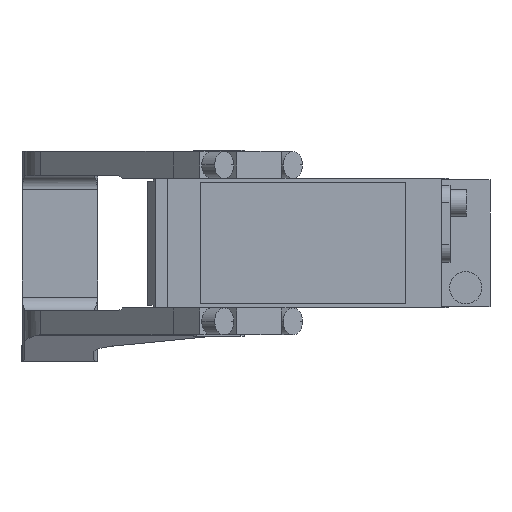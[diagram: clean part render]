
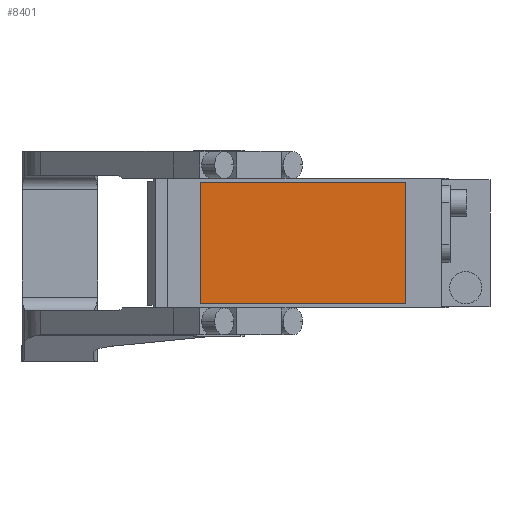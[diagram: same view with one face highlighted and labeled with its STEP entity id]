
A CAD part, front view. The second image highlights one B-rep face of the part: STEP entity #8401.
In plain terms, the highlighted planar face has unit normal (0, -1, 0).
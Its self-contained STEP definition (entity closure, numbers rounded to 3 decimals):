
#2 = VECTOR ( 'NONE', #3048, 1000. ) ;
#31 = CARTESIAN_POINT ( 'NONE',  ( 69., -280.5, 22.5 ) ) ;
#118 = CARTESIAN_POINT ( 'NONE',  ( -7., -280.5, 22.5 ) ) ;
#598 = VERTEX_POINT ( 'NONE', #12288 ) ;
#690 = EDGE_LOOP ( 'NONE', ( #12956, #12557, #5089, #828 ) ) ;
#828 = ORIENTED_EDGE ( 'NONE', *, *, #7422, .T. ) ;
#883 = AXIS2_PLACEMENT_3D ( 'NONE', #6419, #5334, #9649 ) ;
#910 = CARTESIAN_POINT ( 'NONE',  ( -7., -280.5, 22.5 ) ) ;
#2745 = LINE ( 'NONE', #7085, #9473 ) ;
#3048 = DIRECTION ( 'NONE',  ( 0., 0., 1. ) ) ;
#5089 = ORIENTED_EDGE ( 'NONE', *, *, #8534, .T. ) ;
#5334 = DIRECTION ( 'NONE',  ( 0., -1., 0. ) ) ;
#5995 = VERTEX_POINT ( 'NONE', #9123 ) ;
#6419 = CARTESIAN_POINT ( 'NONE',  ( 0., -280.5, 0. ) ) ;
#7085 = CARTESIAN_POINT ( 'NONE',  ( -7., -280.5, -22.5 ) ) ;
#7337 = DIRECTION ( 'NONE',  ( -1., 0., 0. ) ) ;
#7422 = EDGE_CURVE ( 'NONE', #598, #8999, #8395, .T. ) ;
#7685 = DIRECTION ( 'NONE',  ( 0., 0., -1. ) ) ;
#7950 = EDGE_CURVE ( 'NONE', #11957, #5995, #2745, .T. ) ;
#8395 = LINE ( 'NONE', #12718, #13498 ) ;
#8401 = ADVANCED_FACE ( 'NONE', ( #9586 ), #13934, .T. ) ;
#8449 = EDGE_CURVE ( 'NONE', #8999, #11957, #13004, .T. ) ;
#8534 = EDGE_CURVE ( 'NONE', #5995, #598, #11670, .T. ) ;
#8620 = DIRECTION ( 'NONE',  ( 1., 0., 0. ) ) ;
#8999 = VERTEX_POINT ( 'NONE', #910 ) ;
#9123 = CARTESIAN_POINT ( 'NONE',  ( 69., -280.5, -22.5 ) ) ;
#9473 = VECTOR ( 'NONE', #8620, 1000. ) ;
#9586 = FACE_OUTER_BOUND ( 'NONE', #690, .T. ) ;
#9649 = DIRECTION ( 'NONE',  ( 0., 0., -1. ) ) ;
#11670 = LINE ( 'NONE', #31, #2 ) ;
#11948 = VECTOR ( 'NONE', #7685, 1000. ) ;
#11957 = VERTEX_POINT ( 'NONE', #12412 ) ;
#12288 = CARTESIAN_POINT ( 'NONE',  ( 69., -280.5, 22.5 ) ) ;
#12412 = CARTESIAN_POINT ( 'NONE',  ( -7., -280.5, -22.5 ) ) ;
#12557 = ORIENTED_EDGE ( 'NONE', *, *, #7950, .T. ) ;
#12718 = CARTESIAN_POINT ( 'NONE',  ( -7., -280.5, 22.5 ) ) ;
#12956 = ORIENTED_EDGE ( 'NONE', *, *, #8449, .T. ) ;
#13004 = LINE ( 'NONE', #118, #11948 ) ;
#13498 = VECTOR ( 'NONE', #7337, 1000. ) ;
#13934 = PLANE ( 'NONE',  #883 ) ;
